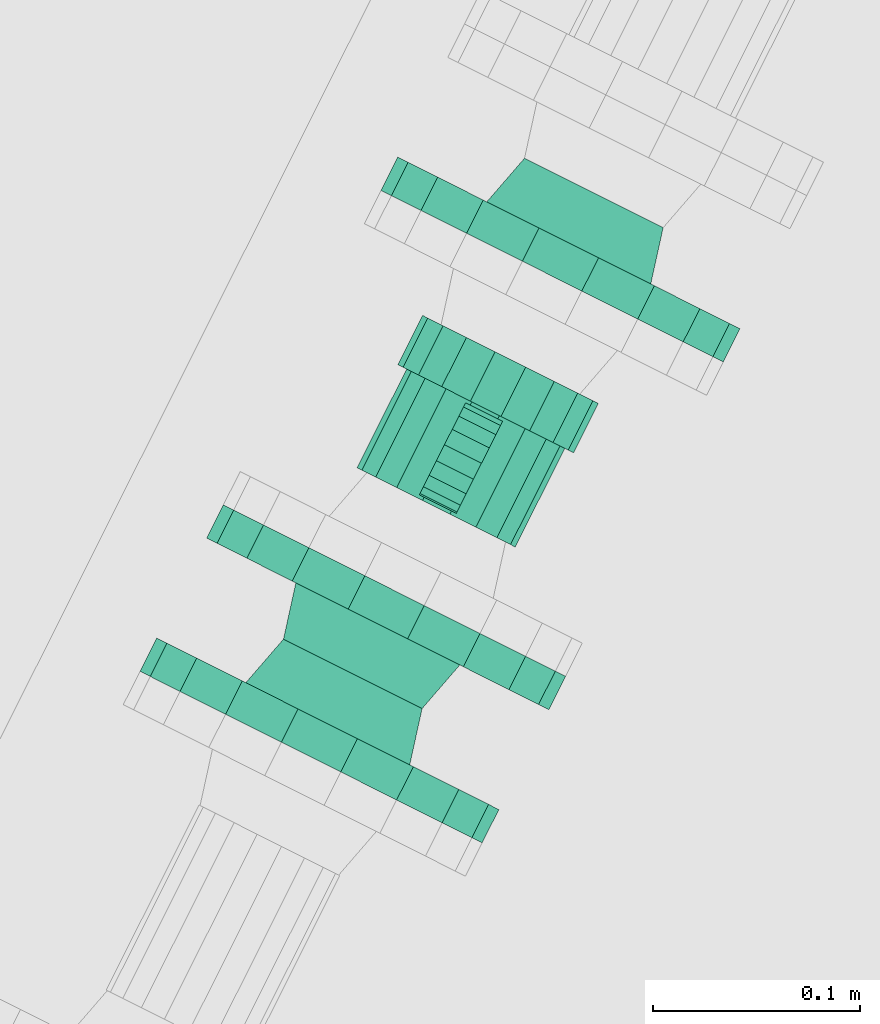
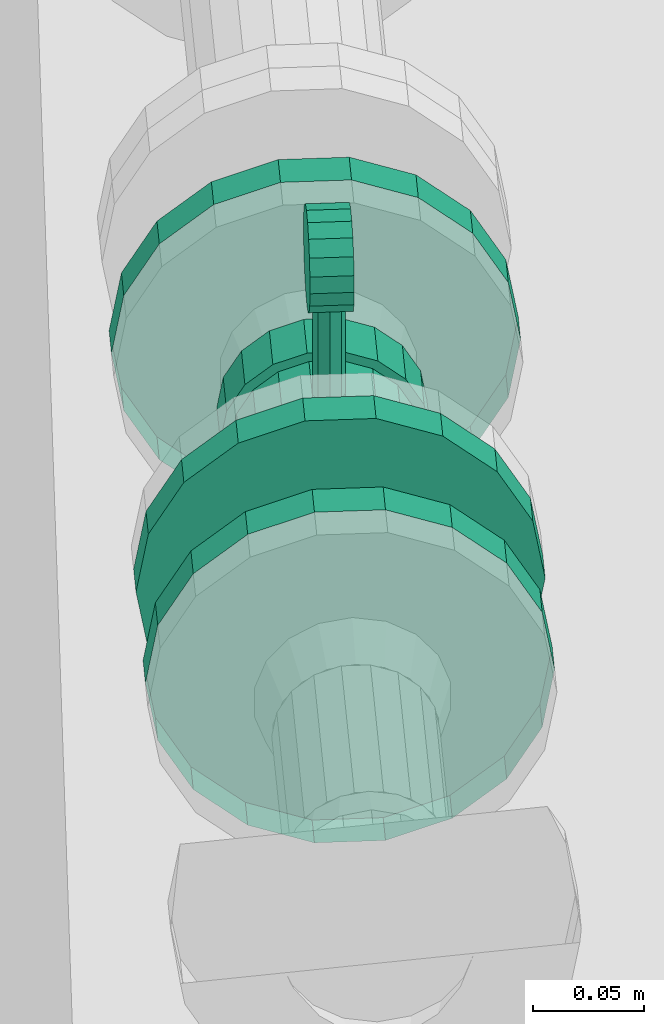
# One storey, part 105 of 206: 3 flow fittings, 1 distribution control element, 1 flow controller.
"""IFC2X3 building model written with IfcOpenShell, lengths in metres."""

from ifc_helpers import new_model, si_unit, derived_unit, direction, frame, origin, place, context, subcontext, project, spatial, face_set, surface_model, source, transform, mapped, material, type_object, type_shapes, element, save


model = new_model("IFC2X3")

# Units and contexts
model_context = context("Model", 3, precision=5.2338327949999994e-05, world=origin(), true_north=direction((0.0, 1.0)))
body_context = subcontext(model_context, "Body", "Model", "MODEL_VIEW")
ifc_project = project(units=[si_unit("LENGTHUNIT", "METRE"), si_unit("AREAUNIT", "SQUARE_METRE"), si_unit("VOLUMEUNIT", "CUBIC_METRE"), si_unit("MASSUNIT", "GRAM", prefix="KILO"), si_unit("PLANEANGLEUNIT", "RADIAN"), derived_unit("THERMALTRANSMITTANCEUNIT", [(si_unit("MASSUNIT", "GRAM", prefix="KILO"), 1), (si_unit("THERMODYNAMICTEMPERATUREUNIT", "KELVIN"), -1), (si_unit("TIMEUNIT", "SECOND"), -3)])], contexts=[model_context])

# Site, building, storey
site_placement = place(None, frame((0.0, 0.0, 0.0), z_axis=(0.0, 0.0, 1.0), x_axis=(0.8939966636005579, -0.4480736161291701, 0.0)))
site = spatial("IfcSite", under=ifc_project, at=site_placement, Name="Default", CompositionType="ELEMENT")
building_placement = place(site_placement, origin())
building = spatial("IfcBuilding", under=site, at=building_placement, CompositionType="ELEMENT")
storey_placement = place(building_placement, origin())
storey = spatial("IfcBuildingStorey", under=building, at=storey_placement, Name="Erdgeschoss", CompositionType="ELEMENT", Elevation=0.0)

# Flow fittings
ifc_material = material(Name="IfcSurfaceStyle #352577")
distribution_element_type_1 = type_object("IfcDistributionElementType", Name="Flansch 354333:Flansch 354333", material=ifc_material)
shared_shape_1 = source(origin(), body_context, "Body", "SurfaceModel", [
    surface_model("IfcFaceBasedSurfaceModel", [(22.264266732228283, 5.99795839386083, 0.869999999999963), (22.269845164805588, 5.99795839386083, 0.8383631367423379), (22.269845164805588, 5.979958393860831, 0.8383631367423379), (22.264266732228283, 5.979958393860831, 0.869999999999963), (22.285907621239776, 5.99795839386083, 0.8105421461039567), (22.285907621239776, 5.979958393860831, 0.8105421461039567), (22.310516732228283, 5.99795839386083, 0.7898926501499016), (22.310516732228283, 5.979958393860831, 0.7898926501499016), (22.340704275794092, 5.99795839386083, 0.778905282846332), (22.340704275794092, 5.979958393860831, 0.778905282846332), (22.372829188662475, 5.99795839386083, 0.7789052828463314), (22.372829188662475, 5.979958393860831, 0.7789052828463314), (22.40301673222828, 5.99795839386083, 0.7898926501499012), (22.40301673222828, 5.979958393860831, 0.7898926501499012), (22.427625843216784, 5.99795839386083, 0.8105421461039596), (22.427625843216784, 5.979958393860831, 0.8105421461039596), (22.44368829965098, 5.99795839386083, 0.8383631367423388), (22.44368829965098, 5.979958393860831, 0.8383631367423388), (22.449266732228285, 5.99795839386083, 0.8699999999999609), (22.449266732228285, 5.979958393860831, 0.8699999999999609), (22.44368829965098, 5.99795839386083, 0.9016368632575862), (22.44368829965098, 5.979958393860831, 0.9016368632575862), (22.427625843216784, 5.99795839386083, 0.9294578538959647), (22.427625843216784, 5.979958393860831, 0.9294578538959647), (22.403016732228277, 5.99795839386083, 0.9501073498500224), (22.403016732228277, 5.979958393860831, 0.9501073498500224), (22.372829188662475, 5.99795839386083, 0.9610947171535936), (22.372829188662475, 5.979958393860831, 0.9610947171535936), (22.340704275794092, 5.99795839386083, 0.9610947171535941), (22.340704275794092, 5.979958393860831, 0.9610947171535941), (22.310516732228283, 5.99795839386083, 0.9501073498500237), (22.310516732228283, 5.979958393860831, 0.9501073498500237), (22.285907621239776, 5.99795839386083, 0.9294578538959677), (22.285907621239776, 5.979958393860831, 0.9294578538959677), (22.269845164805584, 5.99795839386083, 0.9016368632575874), (22.269845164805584, 5.979958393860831, 0.9016368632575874), (22.356766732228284, 5.979958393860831, 0.8699999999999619), (22.356766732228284, 5.979958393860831, 0.8249999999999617), (22.37215763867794, 5.979958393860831, 0.8277138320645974), (22.369780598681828, 5.952958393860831, 0.8342446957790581), (22.356766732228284, 5.952958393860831, 0.8319499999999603), (22.38569217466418, 5.97995839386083, 0.8355280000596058), (22.381224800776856, 5.95295839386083, 0.8408520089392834), (22.395737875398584, 5.979958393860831, 0.8474999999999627), (22.38971899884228, 5.952958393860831, 0.8509749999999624), (22.40108308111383, 5.979958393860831, 0.8621858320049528), (22.3942386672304, 5.952958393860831, 0.863392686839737), (22.40108308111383, 5.979958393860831, 0.8778141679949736), (22.394238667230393, 5.952958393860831, 0.8766073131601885), (22.39573787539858, 5.979958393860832, 0.8924999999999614), (22.38971899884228, 5.952958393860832, 0.889024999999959), (22.38569217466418, 5.979958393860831, 0.9044719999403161), (22.38122480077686, 5.952958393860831, 0.8991479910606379), (22.372157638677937, 5.979958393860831, 0.9122861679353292), (22.369780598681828, 5.952958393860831, 0.9057553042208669), (22.356766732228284, 5.979958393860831, 0.91499999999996), (22.356766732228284, 5.952958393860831, 0.9080499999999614), (22.341375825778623, 5.979958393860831, 0.9122861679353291), (22.343752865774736, 5.952958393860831, 0.9057553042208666), (22.327841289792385, 5.979958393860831, 0.9044719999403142), (22.33230866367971, 5.952958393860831, 0.899147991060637), (22.317795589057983, 5.979958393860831, 0.8924999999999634), (22.323814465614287, 5.952958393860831, 0.8890249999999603), (22.312450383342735, 5.979958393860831, 0.8778141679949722), (22.31929479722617, 5.952958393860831, 0.8766073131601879), (22.31245038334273, 5.979958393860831, 0.8621858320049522), (22.319294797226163, 5.952958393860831, 0.8633926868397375), (22.317795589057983, 5.979958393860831, 0.8474999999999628), (22.323814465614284, 5.952958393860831, 0.8509749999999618), (22.327841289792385, 5.979958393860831, 0.8355280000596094), (22.33230866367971, 5.952958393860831, 0.8408520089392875), (22.341375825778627, 5.979958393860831, 0.8277138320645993), (22.34375286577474, 5.952958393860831, 0.83424469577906)], [face_set([[[0, 1, 2, 3]], [[1, 4, 5, 2]], [[4, 6, 7, 5]], [[6, 8, 9, 7]], [[8, 10, 11, 9]], [[10, 12, 13, 11]], [[12, 14, 15, 13]], [[14, 16, 17, 15]], [[16, 18, 19, 17]], [[18, 20, 21, 19]], [[20, 22, 23, 21]], [[22, 24, 25, 23]], [[24, 26, 27, 25]], [[26, 28, 29, 27]], [[28, 30, 31, 29]], [[30, 32, 33, 31]], [[32, 34, 35, 33]], [[34, 0, 3, 35]], [[36, 35, 3]], [[36, 33, 35]], [[36, 31, 33]], [[36, 29, 31]], [[36, 27, 29]], [[36, 25, 27]], [[36, 23, 25]], [[36, 21, 23]], [[36, 19, 21]], [[36, 17, 19]], [[36, 15, 17]], [[36, 13, 15]], [[36, 11, 13]], [[36, 9, 11]], [[36, 7, 9]], [[36, 5, 7]], [[36, 2, 5]], [[36, 3, 2]], [[37, 38, 39, 40]], [[38, 41, 42, 39]], [[41, 43, 44, 42]], [[43, 45, 46, 44]], [[45, 47, 48, 46]], [[47, 49, 50, 48]], [[49, 51, 52, 50]], [[51, 53, 54, 52]], [[53, 55, 56, 54]], [[55, 57, 58, 56]], [[57, 59, 60, 58]], [[59, 61, 62, 60]], [[61, 63, 64, 62]], [[63, 65, 66, 64]], [[65, 67, 68, 66]], [[67, 69, 70, 68]], [[69, 71, 72, 70]], [[71, 37, 40, 72]]])]),
])
type_shapes(distribution_element_type_1, [shared_shape_1])
flow_fitting_1_placement = place(storey_placement, origin())
element("IfcFlowFitting", 1, at=flow_fitting_1_placement, inside=storey, type_object=distribution_element_type_1, material=ifc_material, Name="Flansch", ObjectType="Flansch", context=body_context, shape_type="MappedRepresentation", body=[
    mapped(shared_shape_1, transform((0.0, 0.0, 0.0), scale=1.0)),
])
distribution_element_type_2 = type_object("IfcDistributionElementType", Name="Flansch 354354:Flansch 354354", material=ifc_material)
shared_shape_2 = source(origin(), body_context, "Body", "SurfaceModel", [
    surface_model("IfcFaceBasedSurfaceModel", [(22.264266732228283, 5.90795839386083, 0.869999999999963), (22.269845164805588, 5.90795839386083, 0.9016368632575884), (22.269845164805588, 5.925958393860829, 0.9016368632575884), (22.264266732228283, 5.925958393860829, 0.869999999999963), (22.285907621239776, 5.90795839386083, 0.9294578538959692), (22.285907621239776, 5.925958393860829, 0.9294578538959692), (22.310516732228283, 5.90795839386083, 0.950107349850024), (22.310516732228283, 5.925958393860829, 0.950107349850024), (22.340704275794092, 5.90795839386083, 0.9610947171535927), (22.340704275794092, 5.925958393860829, 0.9610947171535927), (22.372829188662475, 5.90795839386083, 0.9610947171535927), (22.372829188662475, 5.925958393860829, 0.9610947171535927), (22.40301673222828, 5.90795839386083, 0.9501073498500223), (22.40301673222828, 5.925958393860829, 0.9501073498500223), (22.427625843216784, 5.90795839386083, 0.9294578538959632), (22.427625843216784, 5.925958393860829, 0.9294578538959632), (22.44368829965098, 5.90795839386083, 0.9016368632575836), (22.44368829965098, 5.925958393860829, 0.9016368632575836), (22.449266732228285, 5.90795839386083, 0.8699999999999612), (22.449266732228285, 5.925958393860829, 0.8699999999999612), (22.44368829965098, 5.90795839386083, 0.838363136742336), (22.44368829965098, 5.925958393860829, 0.838363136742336), (22.427625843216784, 5.90795839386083, 0.8105421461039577), (22.427625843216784, 5.925958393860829, 0.8105421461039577), (22.403016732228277, 5.90795839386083, 0.7898926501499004), (22.403016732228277, 5.925958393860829, 0.7898926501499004), (22.37282918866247, 5.90795839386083, 0.778905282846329), (22.37282918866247, 5.925958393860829, 0.778905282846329), (22.340704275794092, 5.90795839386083, 0.7789052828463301), (22.340704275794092, 5.925958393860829, 0.7789052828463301), (22.310516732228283, 5.90795839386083, 0.7898926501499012), (22.310516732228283, 5.925958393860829, 0.7898926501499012), (22.285907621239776, 5.90795839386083, 0.8105421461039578), (22.285907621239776, 5.925958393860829, 0.8105421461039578), (22.269845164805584, 5.90795839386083, 0.8383631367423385), (22.269845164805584, 5.925958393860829, 0.8383631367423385), (22.35676673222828, 5.925958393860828, 0.8699999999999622), (22.356766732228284, 5.925958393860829, 0.9149999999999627), (22.37215763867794, 5.925958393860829, 0.9122861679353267), (22.369780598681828, 5.95295839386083, 0.9057553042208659), (22.356766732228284, 5.95295839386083, 0.9080499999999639), (22.38569217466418, 5.925958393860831, 0.9044719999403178), (22.381224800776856, 5.952958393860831, 0.8991479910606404), (22.395737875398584, 5.925958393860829, 0.8924999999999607), (22.38971899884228, 5.95295839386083, 0.889024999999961), (22.40108308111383, 5.925958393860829, 0.8778141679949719), (22.394238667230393, 5.95295839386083, 0.876607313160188), (22.40108308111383, 5.925958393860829, 0.8621858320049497), (22.394238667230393, 5.95295839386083, 0.8633926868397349), (22.39573787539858, 5.925958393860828, 0.8474999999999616), (22.38971899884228, 5.952958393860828, 0.8509749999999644), (22.38569217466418, 5.925958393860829, 0.8355280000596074), (22.38122480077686, 5.95295839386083, 0.8408520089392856), (22.372157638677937, 5.925958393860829, 0.8277138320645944), (22.369780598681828, 5.95295839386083, 0.8342446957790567), (22.356766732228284, 5.925958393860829, 0.8249999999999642), (22.356766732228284, 5.95295839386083, 0.8319499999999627), (22.341375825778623, 5.925958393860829, 0.8277138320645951), (22.343752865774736, 5.95295839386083, 0.8342446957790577), (22.327841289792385, 5.925958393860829, 0.8355280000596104), (22.33230866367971, 5.95295839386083, 0.8408520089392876), (22.317795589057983, 5.925958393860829, 0.8474999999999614), (22.323814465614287, 5.95295839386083, 0.8509749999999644), (22.312450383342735, 5.925958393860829, 0.8621858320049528), (22.31929479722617, 5.95295839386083, 0.8633926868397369), (22.31245038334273, 5.925958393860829, 0.877814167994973), (22.319294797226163, 5.95295839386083, 0.8766073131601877), (22.317795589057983, 5.925958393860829, 0.8924999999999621), (22.323814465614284, 5.95295839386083, 0.8890249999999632), (22.327841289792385, 5.925958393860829, 0.9044719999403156), (22.33230866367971, 5.95295839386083, 0.8991479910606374), (22.341375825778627, 5.925958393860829, 0.9122861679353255), (22.34375286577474, 5.95295839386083, 0.9057553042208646)], [face_set([[[0, 1, 2, 3]], [[1, 4, 5, 2]], [[4, 6, 7, 5]], [[6, 8, 9, 7]], [[8, 10, 11, 9]], [[10, 12, 13, 11]], [[12, 14, 15, 13]], [[14, 16, 17, 15]], [[16, 18, 19, 17]], [[18, 20, 21, 19]], [[20, 22, 23, 21]], [[22, 24, 25, 23]], [[24, 26, 27, 25]], [[26, 28, 29, 27]], [[28, 30, 31, 29]], [[30, 32, 33, 31]], [[32, 34, 35, 33]], [[34, 0, 3, 35]], [[36, 35, 3]], [[36, 33, 35]], [[36, 31, 33]], [[36, 29, 31]], [[36, 27, 29]], [[36, 25, 27]], [[36, 23, 25]], [[36, 21, 23]], [[36, 19, 21]], [[36, 17, 19]], [[36, 15, 17]], [[36, 13, 15]], [[36, 11, 13]], [[36, 9, 11]], [[36, 7, 9]], [[36, 5, 7]], [[36, 2, 5]], [[36, 3, 2]], [[37, 38, 39, 40]], [[38, 41, 42, 39]], [[41, 43, 44, 42]], [[43, 45, 46, 44]], [[45, 47, 48, 46]], [[47, 49, 50, 48]], [[49, 51, 52, 50]], [[51, 53, 54, 52]], [[53, 55, 56, 54]], [[55, 57, 58, 56]], [[57, 59, 60, 58]], [[59, 61, 62, 60]], [[61, 63, 64, 62]], [[63, 65, 66, 64]], [[65, 67, 68, 66]], [[67, 69, 70, 68]], [[69, 71, 72, 70]], [[71, 37, 40, 72]]])]),
])
type_shapes(distribution_element_type_2, [shared_shape_2])
flow_fitting_2_placement = place(storey_placement, origin())
element("IfcFlowFitting", 2, at=flow_fitting_2_placement, inside=storey, type_object=distribution_element_type_2, material=ifc_material, Name="Flansch", ObjectType="Flansch", context=body_context, shape_type="MappedRepresentation", body=[
    mapped(shared_shape_2, transform((0.0, 0.0, 0.0), scale=1.0)),
])

# Distribution control element
distribution_element_type_3 = type_object("IfcDistributionElementType", Name="Messarmatur:Messarmatur", material=ifc_material)
shared_shape_3 = source(origin(), body_context, "Body", "SurfaceModel", [
    surface_model("IfcFaceBasedSurfaceModel", [(22.346766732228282, 6.087302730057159, 1.0054276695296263), (22.346766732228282, 6.080190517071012, 1.0104076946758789), (22.366766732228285, 6.0801905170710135, 1.0104076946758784), (22.366766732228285, 6.087302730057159, 1.0054276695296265), (22.346766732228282, 6.071803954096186, 1.0126548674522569), (22.366766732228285, 6.071803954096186, 1.0126548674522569), (22.346766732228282, 6.063154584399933, 1.011898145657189), (22.366766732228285, 6.063154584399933, 1.011898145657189), (22.346766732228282, 6.055285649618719, 1.0082288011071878), (22.366766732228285, 6.055285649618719, 1.0082288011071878), (22.346766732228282, 6.04914625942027, 1.002089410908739), (22.366766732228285, 6.04914625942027, 1.002089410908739), (22.346766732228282, 6.045476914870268, 0.9942204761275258), (22.366766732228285, 6.045476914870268, 0.9942204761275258), (22.346766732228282, 6.044720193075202, 0.9855711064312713), (22.366766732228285, 6.044720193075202, 0.9855711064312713), (22.346766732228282, 6.046967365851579, 0.9771845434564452), (22.366766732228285, 6.046967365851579, 0.9771845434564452), (22.346766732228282, 6.051947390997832, 0.9700723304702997), (22.366766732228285, 6.051947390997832, 0.9700723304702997), (22.346766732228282, 6.059059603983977, 0.9650923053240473), (22.366766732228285, 6.059059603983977, 0.9650923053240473), (22.346766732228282, 6.067446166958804, 0.9628451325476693), (22.366766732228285, 6.067446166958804, 0.9628451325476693), (22.346766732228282, 6.076095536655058, 0.9636018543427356), (22.366766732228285, 6.076095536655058, 0.9636018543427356), (22.346766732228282, 6.083964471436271, 0.9672711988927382), (22.366766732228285, 6.083964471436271, 0.9672711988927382), (22.346766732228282, 6.090103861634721, 0.9734105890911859), (22.366766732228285, 6.090103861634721, 0.9734105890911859), (22.346766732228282, 6.093773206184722, 0.9812795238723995), (22.366766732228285, 6.093773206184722, 0.9812795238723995), (22.346766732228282, 6.0945299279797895, 0.989928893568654), (22.366766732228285, 6.0945299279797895, 0.989928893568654), (22.346766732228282, 6.092282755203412, 0.9983154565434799), (22.366766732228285, 6.092282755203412, 0.9983154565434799), (22.346766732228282, 6.069625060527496, 0.9877499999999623), (22.366766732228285, 6.069625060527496, 0.9877499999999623), (22.34926673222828, 6.069625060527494, 0.9127499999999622), (22.35146343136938, 6.064321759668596, 0.9127499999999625), (22.35146343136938, 6.064321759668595, 0.962749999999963), (22.34926673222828, 6.0696250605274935, 0.9627499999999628), (22.356766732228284, 6.062125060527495, 0.9127499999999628), (22.356766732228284, 6.062125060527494, 0.9627499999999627), (22.362070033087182, 6.064321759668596, 0.9127499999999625), (22.362070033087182, 6.064321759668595, 0.962749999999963), (22.36426673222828, 6.0696250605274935, 0.9127499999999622), (22.36426673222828, 6.069625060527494, 0.9627499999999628), (22.362070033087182, 6.0749283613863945, 0.9127499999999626), (22.362070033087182, 6.0749283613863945, 0.962749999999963), (22.356766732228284, 6.077125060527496, 0.9127499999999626), (22.356766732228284, 6.077125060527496, 0.9627499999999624), (22.35146343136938, 6.074928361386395, 0.9127499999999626), (22.35146343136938, 6.074928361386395, 0.962749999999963)], [face_set([[[0, 1, 2, 3]], [[1, 4, 5, 2]], [[4, 6, 7, 5]], [[6, 8, 9, 7]], [[8, 10, 11, 9]], [[10, 12, 13, 11]], [[12, 14, 15, 13]], [[14, 16, 17, 15]], [[16, 18, 19, 17]], [[18, 20, 21, 19]], [[20, 22, 23, 21]], [[22, 24, 25, 23]], [[24, 26, 27, 25]], [[26, 28, 29, 27]], [[28, 30, 31, 29]], [[30, 32, 33, 31]], [[32, 34, 35, 33]], [[34, 0, 3, 35]], [[36, 1, 0]], [[36, 4, 1]], [[36, 6, 4]], [[36, 8, 6]], [[36, 10, 8]], [[36, 12, 10]], [[36, 14, 12]], [[36, 16, 14]], [[36, 18, 16]], [[36, 20, 18]], [[36, 22, 20]], [[36, 24, 22]], [[36, 26, 24]], [[36, 28, 26]], [[36, 30, 28]], [[36, 32, 30]], [[36, 34, 32]], [[36, 0, 34]], [[37, 35, 3]], [[37, 33, 35]], [[37, 31, 33]], [[37, 29, 31]], [[37, 27, 29]], [[37, 25, 27]], [[37, 23, 25]], [[37, 21, 23]], [[37, 19, 21]], [[37, 17, 19]], [[37, 15, 17]], [[37, 13, 15]], [[37, 11, 13]], [[37, 9, 11]], [[37, 7, 9]], [[37, 5, 7]], [[37, 2, 5]], [[37, 3, 2]], [[38, 39, 40, 41]], [[39, 42, 43, 40]], [[42, 44, 45, 43]], [[44, 46, 47, 45]], [[46, 48, 49, 47]], [[48, 50, 51, 49]], [[50, 52, 53, 51]], [[52, 38, 41, 53]]])]),
])
type_shapes(distribution_element_type_3, [shared_shape_3])
distribution_control_element_placement = place(storey_placement, origin())
element("IfcDistributionControlElement", 3, at=distribution_control_element_placement, inside=storey, type_object=distribution_element_type_3, material=ifc_material, Name="Messarmatur", ObjectType="Messarmatur", context=body_context, shape_type="MappedRepresentation", body=[
    mapped(shared_shape_3, transform((0.0, 0.0, 0.0), scale=1.0)),
])

# Flow controller
distribution_element_type_4 = type_object("IfcDistributionElementType", Name="Gasfilter:Gasfilter", material=ifc_material)
shared_shape_4 = source(origin(), body_context, "Body", "SurfaceModel", [
    surface_model("IfcFaceBasedSurfaceModel", [(22.31401673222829, 6.04295839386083, 0.869999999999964), (22.316594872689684, 6.04295839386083, 0.8846213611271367), (22.316594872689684, 6.096291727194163, 0.8846213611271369), (22.31401673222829, 6.096291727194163, 0.8699999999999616), (22.324018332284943, 6.04295839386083, 0.8974791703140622), (22.324018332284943, 6.096291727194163, 0.8974791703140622), (22.33539173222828, 6.04295839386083, 0.9070225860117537), (22.33539173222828, 6.096291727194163, 0.9070225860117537), (22.349343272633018, 6.04295839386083, 0.9121005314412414), (22.349343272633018, 6.096291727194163, 0.9121005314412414), (22.36419019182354, 6.04295839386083, 0.9121005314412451), (22.36419019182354, 6.096291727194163, 0.9121005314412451), (22.378141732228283, 6.04295839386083, 0.9070225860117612), (22.378141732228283, 6.096291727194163, 0.9070225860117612), (22.38951513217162, 6.04295839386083, 0.8974791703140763), (22.38951513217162, 6.096291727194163, 0.8974791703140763), (22.39693859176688, 6.04295839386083, 0.8846213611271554), (22.39693859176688, 6.096291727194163, 0.8846213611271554), (22.399516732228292, 6.04295839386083, 0.8699999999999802), (22.399516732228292, 6.096291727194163, 0.8699999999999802), (22.396938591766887, 6.04295839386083, 0.8553786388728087), (22.396938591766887, 6.096291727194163, 0.8553786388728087), (22.38951513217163, 6.04295839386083, 0.8425208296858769), (22.38951513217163, 6.096291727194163, 0.8425208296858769), (22.378141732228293, 6.04295839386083, 0.8329774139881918), (22.378141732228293, 6.096291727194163, 0.8329774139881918), (22.36419019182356, 6.04295839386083, 0.8278994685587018), (22.36419019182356, 6.096291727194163, 0.8278994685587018), (22.349343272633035, 6.04295839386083, 0.8278994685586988), (22.349343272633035, 6.096291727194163, 0.8278994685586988), (22.3353917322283, 6.04295839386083, 0.8329774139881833), (22.3353917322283, 6.096291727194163, 0.8329774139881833), (22.324018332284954, 6.04295839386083, 0.8425208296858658), (22.324018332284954, 6.096291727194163, 0.8425208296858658), (22.3165948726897, 6.04295839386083, 0.8553786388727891), (22.3165948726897, 6.096291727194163, 0.8553786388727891), (22.356766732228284, 6.04295839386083, 0.8699999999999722), (22.30926673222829, 6.096291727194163, 0.8699999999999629), (22.312131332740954, 6.096291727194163, 0.8862459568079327), (22.312131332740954, 6.12295839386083, 0.8862459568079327), (22.30926673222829, 6.12295839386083, 0.8699999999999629), (22.320379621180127, 6.096291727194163, 0.9005324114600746), (22.320379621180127, 6.12295839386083, 0.9005324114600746), (22.33301673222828, 6.096291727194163, 0.9111362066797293), (22.33301673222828, 6.12295839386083, 0.9111362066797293), (22.348518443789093, 6.096291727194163, 0.9167783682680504), (22.348518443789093, 6.12295839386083, 0.9167783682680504), (22.365015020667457, 6.096291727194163, 0.9167783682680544), (22.365015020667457, 6.12295839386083, 0.9167783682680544), (22.380516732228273, 6.096291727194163, 0.9111362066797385), (22.380516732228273, 6.12295839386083, 0.9111362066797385), (22.393153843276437, 6.096291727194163, 0.9005324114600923), (22.393153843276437, 6.12295839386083, 0.9005324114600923), (22.401402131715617, 6.096291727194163, 0.88624595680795), (22.401402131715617, 6.12295839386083, 0.88624595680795), (22.40426673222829, 6.096291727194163, 0.8699999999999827), (22.40426673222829, 6.12295839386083, 0.8699999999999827), (22.40140213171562, 6.096291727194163, 0.8537540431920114), (22.40140213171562, 6.12295839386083, 0.8537540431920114), (22.393153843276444, 6.096291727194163, 0.8394675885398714), (22.393153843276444, 6.12295839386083, 0.8394675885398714), (22.380516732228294, 6.096291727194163, 0.8288637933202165), (22.380516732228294, 6.12295839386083, 0.8288637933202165), (22.365015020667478, 6.096291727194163, 0.823221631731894), (22.365015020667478, 6.12295839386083, 0.823221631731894), (22.348518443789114, 6.096291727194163, 0.823221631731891), (22.348518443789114, 6.12295839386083, 0.823221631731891), (22.333016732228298, 6.096291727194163, 0.8288637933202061), (22.333016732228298, 6.12295839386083, 0.8288637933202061), (22.320379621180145, 6.096291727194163, 0.8394675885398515), (22.320379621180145, 6.12295839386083, 0.8394675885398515), (22.312131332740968, 6.096291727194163, 0.8537540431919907), (22.312131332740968, 6.12295839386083, 0.8537540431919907), (22.356766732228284, 6.096291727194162, 0.8699999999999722), (22.356766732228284, 6.12295839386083, 0.8699999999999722)], [face_set([[[0, 1, 2, 3]], [[1, 4, 5, 2]], [[4, 6, 7, 5]], [[6, 8, 9, 7]], [[8, 10, 11, 9]], [[10, 12, 13, 11]], [[12, 14, 15, 13]], [[14, 16, 17, 15]], [[16, 18, 19, 17]], [[18, 20, 21, 19]], [[20, 22, 23, 21]], [[22, 24, 25, 23]], [[24, 26, 27, 25]], [[26, 28, 29, 27]], [[28, 30, 31, 29]], [[30, 32, 33, 31]], [[32, 34, 35, 33]], [[34, 0, 3, 35]], [[36, 1, 0]], [[36, 4, 1]], [[36, 6, 4]], [[36, 8, 6]], [[36, 10, 8]], [[36, 12, 10]], [[36, 14, 12]], [[36, 16, 14]], [[36, 18, 16]], [[36, 20, 18]], [[36, 22, 20]], [[36, 24, 22]], [[36, 26, 24]], [[36, 28, 26]], [[36, 30, 28]], [[36, 32, 30]], [[36, 34, 32]], [[36, 0, 34]], [[37, 38, 39, 40]], [[38, 41, 42, 39]], [[41, 43, 44, 42]], [[43, 45, 46, 44]], [[45, 47, 48, 46]], [[47, 49, 50, 48]], [[49, 51, 52, 50]], [[51, 53, 54, 52]], [[53, 55, 56, 54]], [[55, 57, 58, 56]], [[57, 59, 60, 58]], [[59, 61, 62, 60]], [[61, 63, 64, 62]], [[63, 65, 66, 64]], [[65, 67, 68, 66]], [[67, 69, 70, 68]], [[69, 71, 72, 70]], [[71, 37, 40, 72]], [[73, 38, 37]], [[73, 41, 38]], [[73, 43, 41]], [[73, 45, 43]], [[73, 47, 45]], [[73, 49, 47]], [[73, 51, 49]], [[73, 53, 51]], [[73, 55, 53]], [[73, 57, 55]], [[73, 59, 57]], [[73, 61, 59]], [[73, 63, 61]], [[73, 65, 63]], [[73, 67, 65]], [[73, 69, 67]], [[73, 71, 69]], [[73, 37, 71]], [[74, 72, 40]], [[74, 70, 72]], [[74, 68, 70]], [[74, 66, 68]], [[74, 64, 66]], [[74, 62, 64]], [[74, 60, 62]], [[74, 58, 60]], [[74, 56, 58]], [[74, 54, 56]], [[74, 52, 54]], [[74, 50, 52]], [[74, 48, 50]], [[74, 46, 48]], [[74, 44, 46]], [[74, 42, 44]], [[74, 39, 42]], [[74, 40, 39]]])]),
])
type_shapes(distribution_element_type_4, [shared_shape_4])
flow_controller_placement = place(storey_placement, origin())
element("IfcFlowController", 4, at=flow_controller_placement, inside=storey, type_object=distribution_element_type_4, material=ifc_material, Name="Gasfilter", ObjectType="Gasfilter", context=body_context, shape_type="MappedRepresentation", body=[
    mapped(shared_shape_4, transform((0.0, 0.0, 0.0), scale=1.0)),
])

# Flow fitting
distribution_element_type_5 = type_object("IfcDistributionElementType", Name="Flansch 355484:Flansch 355484", material=ifc_material)
shared_shape_5 = source(origin(), body_context, "Body", "SurfaceModel", [
    surface_model("IfcFaceBasedSurfaceModel", [(22.264266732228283, 6.167958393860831, 0.869999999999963), (22.269845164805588, 6.167958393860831, 0.9016368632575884), (22.269845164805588, 6.18595839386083, 0.9016368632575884), (22.264266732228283, 6.18595839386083, 0.869999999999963), (22.285907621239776, 6.167958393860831, 0.9294578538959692), (22.285907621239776, 6.18595839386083, 0.9294578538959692), (22.310516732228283, 6.167958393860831, 0.950107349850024), (22.310516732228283, 6.18595839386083, 0.950107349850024), (22.340704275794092, 6.167958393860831, 0.9610947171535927), (22.340704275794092, 6.18595839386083, 0.9610947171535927), (22.372829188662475, 6.167958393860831, 0.9610947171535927), (22.372829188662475, 6.18595839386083, 0.9610947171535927), (22.40301673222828, 6.167958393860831, 0.9501073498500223), (22.40301673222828, 6.18595839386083, 0.9501073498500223), (22.427625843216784, 6.167958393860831, 0.9294578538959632), (22.427625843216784, 6.18595839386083, 0.9294578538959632), (22.44368829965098, 6.167958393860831, 0.9016368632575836), (22.44368829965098, 6.18595839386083, 0.9016368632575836), (22.449266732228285, 6.167958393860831, 0.8699999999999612), (22.449266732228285, 6.18595839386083, 0.8699999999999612), (22.44368829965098, 6.167958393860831, 0.838363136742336), (22.44368829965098, 6.18595839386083, 0.838363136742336), (22.427625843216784, 6.167958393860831, 0.8105421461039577), (22.427625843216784, 6.18595839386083, 0.8105421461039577), (22.403016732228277, 6.167958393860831, 0.7898926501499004), (22.403016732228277, 6.18595839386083, 0.7898926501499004), (22.37282918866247, 6.167958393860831, 0.778905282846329), (22.37282918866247, 6.18595839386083, 0.778905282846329), (22.340704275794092, 6.167958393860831, 0.7789052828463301), (22.340704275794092, 6.18595839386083, 0.7789052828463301), (22.310516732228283, 6.167958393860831, 0.7898926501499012), (22.310516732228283, 6.18595839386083, 0.7898926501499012), (22.285907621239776, 6.167958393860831, 0.8105421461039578), (22.285907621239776, 6.18595839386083, 0.8105421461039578), (22.269845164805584, 6.167958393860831, 0.8383631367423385), (22.269845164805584, 6.18595839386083, 0.8383631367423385), (22.35676673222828, 6.18595839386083, 0.8699999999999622), (22.356766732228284, 6.18595839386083, 0.9149999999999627), (22.37215763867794, 6.18595839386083, 0.9122861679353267), (22.369780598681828, 6.21295839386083, 0.9057553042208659), (22.356766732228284, 6.21295839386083, 0.9080499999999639), (22.38569217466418, 6.1859583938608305, 0.9044719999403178), (22.381224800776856, 6.2129583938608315, 0.8991479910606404), (22.395737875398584, 6.18595839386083, 0.8924999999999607), (22.38971899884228, 6.21295839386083, 0.889024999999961), (22.40108308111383, 6.18595839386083, 0.8778141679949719), (22.394238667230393, 6.21295839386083, 0.876607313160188), (22.40108308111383, 6.18595839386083, 0.8621858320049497), (22.394238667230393, 6.21295839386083, 0.8633926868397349), (22.39573787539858, 6.185958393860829, 0.8474999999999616), (22.38971899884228, 6.212958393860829, 0.8509749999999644), (22.38569217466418, 6.18595839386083, 0.8355280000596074), (22.38122480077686, 6.21295839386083, 0.8408520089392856), (22.372157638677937, 6.18595839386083, 0.8277138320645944), (22.369780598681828, 6.21295839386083, 0.8342446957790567), (22.356766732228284, 6.18595839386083, 0.8249999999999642), (22.356766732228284, 6.21295839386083, 0.8319499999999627), (22.341375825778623, 6.18595839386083, 0.8277138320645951), (22.343752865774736, 6.21295839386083, 0.8342446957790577), (22.327841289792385, 6.18595839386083, 0.8355280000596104), (22.33230866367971, 6.21295839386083, 0.8408520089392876), (22.317795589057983, 6.18595839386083, 0.8474999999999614), (22.323814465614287, 6.21295839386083, 0.8509749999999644), (22.312450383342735, 6.18595839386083, 0.8621858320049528), (22.31929479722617, 6.21295839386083, 0.8633926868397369), (22.31245038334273, 6.18595839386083, 0.877814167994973), (22.319294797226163, 6.21295839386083, 0.8766073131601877), (22.317795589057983, 6.18595839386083, 0.8924999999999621), (22.323814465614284, 6.21295839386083, 0.8890249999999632), (22.327841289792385, 6.18595839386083, 0.9044719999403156), (22.33230866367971, 6.21295839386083, 0.8991479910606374), (22.341375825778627, 6.18595839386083, 0.9122861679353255), (22.34375286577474, 6.21295839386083, 0.9057553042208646)], [face_set([[[0, 1, 2, 3]], [[1, 4, 5, 2]], [[4, 6, 7, 5]], [[6, 8, 9, 7]], [[8, 10, 11, 9]], [[10, 12, 13, 11]], [[12, 14, 15, 13]], [[14, 16, 17, 15]], [[16, 18, 19, 17]], [[18, 20, 21, 19]], [[20, 22, 23, 21]], [[22, 24, 25, 23]], [[24, 26, 27, 25]], [[26, 28, 29, 27]], [[28, 30, 31, 29]], [[30, 32, 33, 31]], [[32, 34, 35, 33]], [[34, 0, 3, 35]], [[36, 35, 3]], [[36, 33, 35]], [[36, 31, 33]], [[36, 29, 31]], [[36, 27, 29]], [[36, 25, 27]], [[36, 23, 25]], [[36, 21, 23]], [[36, 19, 21]], [[36, 17, 19]], [[36, 15, 17]], [[36, 13, 15]], [[36, 11, 13]], [[36, 9, 11]], [[36, 7, 9]], [[36, 5, 7]], [[36, 2, 5]], [[36, 3, 2]], [[37, 38, 39, 40]], [[38, 41, 42, 39]], [[41, 43, 44, 42]], [[43, 45, 46, 44]], [[45, 47, 48, 46]], [[47, 49, 50, 48]], [[49, 51, 52, 50]], [[51, 53, 54, 52]], [[53, 55, 56, 54]], [[55, 57, 58, 56]], [[57, 59, 60, 58]], [[59, 61, 62, 60]], [[61, 63, 64, 62]], [[63, 65, 66, 64]], [[65, 67, 68, 66]], [[67, 69, 70, 68]], [[69, 71, 72, 70]], [[71, 37, 40, 72]]])]),
])
type_shapes(distribution_element_type_5, [shared_shape_5])
flow_fitting_3_placement = place(storey_placement, origin())
element("IfcFlowFitting", 5, at=flow_fitting_3_placement, inside=storey, type_object=distribution_element_type_5, material=ifc_material, Name="Flansch", ObjectType="Flansch", context=body_context, shape_type="MappedRepresentation", body=[
    mapped(shared_shape_5, transform((0.0, 0.0, 0.0), scale=1.0)),
])

save(model, "model.ifc")
